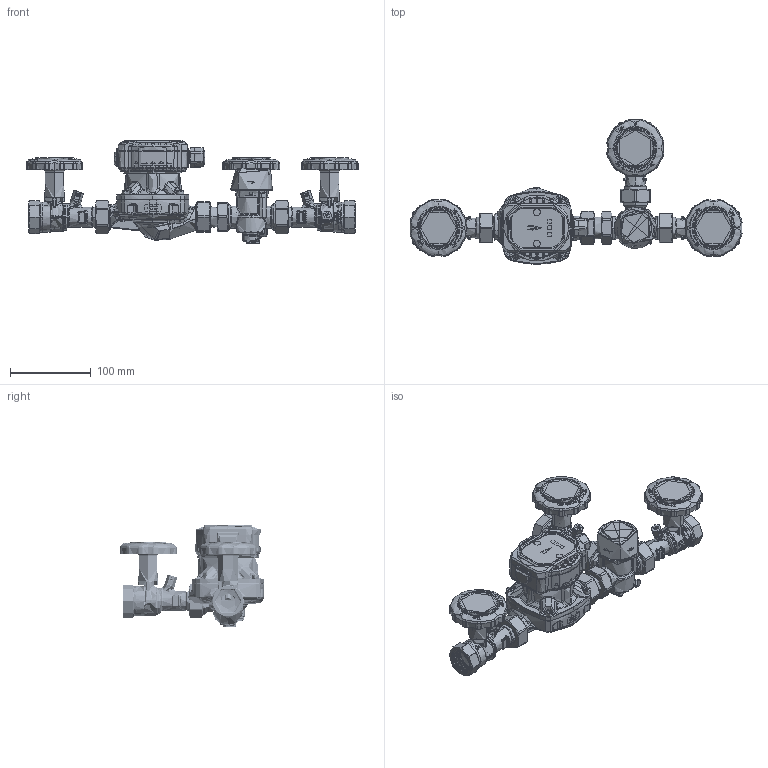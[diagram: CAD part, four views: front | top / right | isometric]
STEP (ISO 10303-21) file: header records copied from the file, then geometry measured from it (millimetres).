
FILE_DESCRIPTION (( 'STEP AP203' ), '1' );
FILE_NAME ('BRA130_grupa_pompowa_ochrony_powrotu_kotla_9013020_0_3D_AFRISO.STEP', '2024-11-22T10:42:53', ( '' ), ( '' ), 'SwSTEP 2.0', 'SolidWorks 2024', '' );
FILE_SCHEMA (( 'CONFIG_CONTROL_DESIGN' ));
Length unit declared in the file: millimetre
Products named in the file (39): BRA130_grupa_pompowa_ochrony_powrotu_kotla_9013020_0_3D_AFRISO; 54705879; 709 000 0021_W_X_FCplast-Linsenkopfschraube 3,5x14 T10_0; 05 01 001124_Geh_X_E4use 3-W ARV-Vario DN20 AG ; 30505300; 52705005; APH-100-15-7-130_LFP; VALVOLA-BLU-1DFx1F-COD-1; 52005071; 30805032; VALVOLA-ROSSA-1DFx1F-COD-9_ASSIEME; 52110003; M1605404; 30105655; VALVOLA-BLU-1DFx1F-COD-9; 52905973; 23208006; 54305173; VALVOLA-ROSSA-1DFx1F-COD-2_ASSIEME; VALVOLA-ROSSA-1DFx1F-COD-7_ASSIEME; VALVOLA-BLU-1DFx1F-COD-7_Defalut; 05 01 001117_Verstellhebel DN20_DN25; ARV_nowa generacja (pokrętło); 05 01 001120_Aufnahmesockel DN20_DN25; 30525300; 50705173; 54705880; VALVOLA-BLU-1DFx1F-COD-2; 52905873; L1605404; 53105253; 33208065; 33208005; 53605974; 31505091; 31605332; 31505553; 50905872_Nera; VALVOLA-ROSSA-1DFx1F-COD-1
Assembly tree (55 placements, depth 7):
  BRA130_grupa_pompowa_ochrony_powrotu_kotla_9013020_0_3D_AFRISO
    M1605404
      L1605404
      53105253
      31505553
    VALVOLA-ROSSA-1DFx1F-COD-1  x2
      VALVOLA-ROSSA-1DFx1F-COD-7_ASSIEME
        VALVOLA-ROSSA-1DFx1F-COD-9_ASSIEME
          VALVOLA-ROSSA-1DFx1F-COD-2_ASSIEME
            30525300
              30505300
              52905873  x2
            30105655
            33208005
            52705005  x2
            31605332
          50905872_Nera
          31505091
          52005071
          52110003
          30805032
        53105253
        31505553
      54705880
    VALVOLA-BLU-1DFx1F-COD-1
      VALVOLA-BLU-1DFx1F-COD-7_Defalut
        VALVOLA-BLU-1DFx1F-COD-9
          VALVOLA-BLU-1DFx1F-COD-2
            30525300
              30505300
              52905873  x2
            23208006
              33208065
              50705173
              54305173
              52905973
              53605974
            30105655
            52705005  x2
            31605332
          50905872_Nera
          31505091
          52005071
          52110003
          30805032
        53105253
        31505553
      54705879
    ARV_nowa generacja (pokrętło)
    APH-100-15-7-130_LFP
    05 01 001124_Geh_X_E4use 3-W ARV-Vario DN20 AG 
    05 01 001117_Verstellhebel DN20_DN25
    05 01 001120_Aufnahmesockel DN20_DN25
    709 000 0021_W_X_FCplast-Linsenkopfschraube 3,5x14 T10_0
Bounding box: 411.56 x 179.34 x 127.65 mm (x, y, z)
Topology: 77 solids, 86 shells, 12139 faces, 29861 edges, 18196 vertices
Faces by surface type: plane 3516, cylinder 2531, bspline 2416, cone 2188, torus 1126, sphere 362
Entity records: 492277 total; most frequent: CARTESIAN_POINT 320337, ORIENTED_EDGE 38544, DIRECTION 29569, EDGE_CURVE 19272, VERTEX_POINT 11735, AXIS2_PLACEMENT_3D 11334, EDGE_LOOP 8383, FACE_OUTER_BOUND 7963
